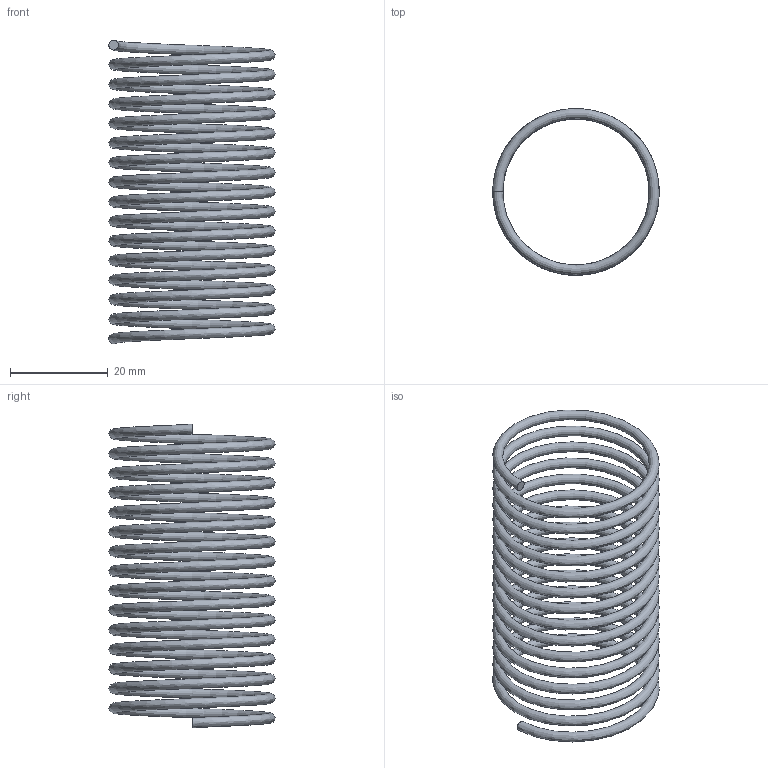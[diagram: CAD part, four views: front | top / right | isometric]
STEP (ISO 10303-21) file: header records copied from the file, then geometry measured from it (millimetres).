
FILE_DESCRIPTION(/* description */ (''),/* implementation_level */ '2;1');
FILE_NAME(/* name */ '',/* time_stamp */ '2026-05-08T17:27:52+08:00',/* author */ ('32769'),/* organization */ (''),/* preprocessor_version */ 'ST-DEVELOPER v20',/* originating_system */ 'Autodesk Inventor 2025',/* authorisation */ '');
FILE_SCHEMA (('AUTOMOTIVE_DESIGN { 1 0 10303 214 3 1 1 }'));
Length unit declared in the file: millimetre
Products named in the file (1): coil2
Bounding box: 34 x 34 x 62 mm (x, y, z)
Volume: 4736.7 mm3; surface area: 9483.8 mm2
Topology: 1 solids, 1 shells, 3 faces, 3 edges, 3 vertices
Faces by surface type: plane 2, bspline 1
Entity records: 2229 total; most frequent: CARTESIAN_POINT 2131, DIRECTION 10, ORIENTED_EDGE 6, AXIS2_PLACEMENT_3D 5, FACE_OUTER_BOUND 3, EDGE_LOOP 3, EDGE_CURVE 3, ADVANCED_FACE 3
